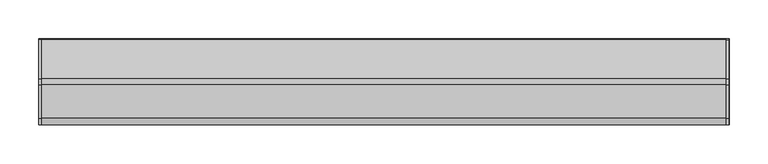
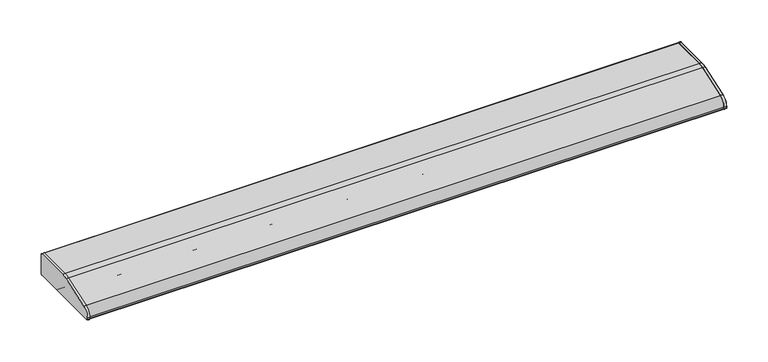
"""IFC4 building model written with IfcOpenShell, lengths in millimetres: light fixture geometry, HermanMiller_SupplementalProducts_G6136_UtilityTaskLight : AO Etho Canvas 42W."""

from ifc_helpers import new_model, si_unit, point, frame, frame_2d, origin, place, context, project, spatial, polyline, circle_curve, trimmed, segment, composite_curve, outline, extrude, source, transform, mapped, element, save


def light_fixture_d29e1486(model_context):
    return source(origin(), model_context, "Body", "SweptSolid", [
        extrude(outline(composite_curve([segment(polyline([(53.975, 1308.1), (-53.975, 1308.1)]), True, "CONTINUOUS"), segment(trimmed(circle_curve(frame_2d((-53.975, 1309.6875)), 1.5875), [point((-53.975, 1308.1))], [point((-55.5625, 1309.6875))], False, "CARTESIAN"), True, "CONTINUOUS"), segment(polyline([(-55.5625, 1309.6875), (-55.5625, 1311.7285714)]), True, "CONTINUOUS"), segment(trimmed(circle_curve(frame_2d((-42.8625, 1311.7285714)), 12.7), [point((-55.5625, 1311.7285714))], [point((-46.9814189, 1323.7420849))], False, "CARTESIAN"), True, "CONTINUOUS"), segment(polyline([(-46.9814189, 1323.7420849), (-4.0045045, 1338.477027)]), True, "CONTINUOUS"), segment(trimmed(circle_curve(frame_2d((4.2333333, 1314.45)), 25.4), [point((-4.0045045, 1338.477027))], [point((4.2333333, 1339.85))], False, "CARTESIAN"), True, "CONTINUOUS"), segment(polyline([(4.2333333, 1339.85), (53.975, 1339.85)]), True, "CONTINUOUS"), segment(trimmed(circle_curve(frame_2d((53.975, 1338.2625)), 1.5875), [point((53.975, 1339.85))], [point((55.5625, 1338.2625))], False, "CARTESIAN"), True, "CONTINUOUS"), segment(polyline([(55.5625, 1338.2625), (55.5625, 1309.6875)]), True, "CONTINUOUS"), segment(trimmed(circle_curve(frame_2d((53.975, 1309.6875)), 1.5875), [point((55.5625, 1309.6875))], [point((53.975, 1308.1))], False, "CARTESIAN"), True, "CONTINUOUS")], self_intersect=False)), frame((441.833, 0.0, 0.0), z_axis=(1.0, 0.0, 0.0), x_axis=(0.0, 1.0, 0.0)), (0.0, 0.0, 1.0), 3.175),
        extrude(outline(composite_curve([segment(trimmed(circle_curve(frame_2d((53.975, 1338.2625)), 1.5875), [point((53.975, 1339.85))], [point((55.5625, 1338.2625))], False, "CARTESIAN"), True, "CONTINUOUS"), segment(polyline([(55.5625, 1338.2625), (55.5625, 1309.6875)]), True, "CONTINUOUS"), segment(trimmed(circle_curve(frame_2d((53.975, 1309.6875)), 1.5875), [point((55.5625, 1309.6875))], [point((53.975, 1308.1))], False, "CARTESIAN"), True, "CONTINUOUS"), segment(polyline([(53.975, 1308.1), (-53.975, 1308.1)]), True, "CONTINUOUS"), segment(trimmed(circle_curve(frame_2d((-53.975, 1309.6875)), 1.5875), [point((-53.975, 1308.1))], [point((-55.5625, 1309.6875))], False, "CARTESIAN"), True, "CONTINUOUS"), segment(polyline([(-55.5625, 1309.6875), (-55.5625, 1311.7285714)]), True, "CONTINUOUS"), segment(trimmed(circle_curve(frame_2d((-42.8625, 1311.7285714)), 12.7), [point((-55.5625, 1311.7285714))], [point((-46.9814189, 1323.7420849))], False, "CARTESIAN"), True, "CONTINUOUS"), segment(polyline([(-46.9814189, 1323.7420849), (-4.0045045, 1338.477027)]), True, "CONTINUOUS"), segment(trimmed(circle_curve(frame_2d((4.2333333, 1314.45)), 25.4), [point((-4.0045045, 1338.477027))], [point((4.2333333, 1339.85))], False, "CARTESIAN"), True, "CONTINUOUS"), segment(polyline([(4.2333333, 1339.85), (53.975, 1339.85)]), True, "CONTINUOUS")], self_intersect=False)), frame((-445.008, 0.0, 0.0), z_axis=(1.0, 0.0, 0.0), x_axis=(0.0, 1.0, 0.0)), (0.0, 0.0, 1.0), 3.175),
        extrude(outline(composite_curve([segment(polyline([(55.5625, 1338.2625), (55.5625, 1309.6875)]), True, "CONTINUOUS"), segment(trimmed(circle_curve(frame_2d((53.975, 1309.6875)), 1.5875), [point((55.5625, 1309.6875))], [point((53.975, 1308.1))], False, "CARTESIAN"), True, "CONTINUOUS"), segment(polyline([(53.975, 1308.1), (19.05, 1308.1)]), True, "CONTINUOUS"), segment(trimmed(circle_curve(frame_2d((19.05, 1309.6875)), 1.5875), [point((19.05, 1308.1))], [point((17.4625, 1309.6875))], False, "CARTESIAN"), True, "CONTINUOUS"), segment(polyline([(17.4625, 1309.6875), (17.4625, 1338.2625), (4.4979167, 1338.2625)]), True, "CONTINUOUS"), segment(trimmed(circle_curve(frame_2d((4.4979167, 1312.8625)), 25.4), [point((4.4979167, 1338.2625))], [point((-3.7399212, 1336.889527))], True, "CARTESIAN"), True, "CONTINUOUS"), segment(polyline([(-3.7399212, 1336.889527), (-37.4564189, 1325.3295849)]), True, "CONTINUOUS"), segment(trimmed(circle_curve(frame_2d((-33.3375, 1313.3160714)), 12.7), [point((-37.4564189, 1325.3295849))], [point((-46.0375, 1313.3160714))], True, "CARTESIAN"), True, "CONTINUOUS"), segment(polyline([(-46.0375, 1313.3160714), (-46.0375, 1309.6875)]), True, "CONTINUOUS"), segment(trimmed(circle_curve(frame_2d((-47.625, 1309.6875)), 1.5875), [point((-46.0375, 1309.6875))], [point((-47.625, 1308.1))], False, "CARTESIAN"), True, "CONTINUOUS"), segment(polyline([(-47.625, 1308.1), (-53.975, 1308.1)]), True, "CONTINUOUS"), segment(trimmed(circle_curve(frame_2d((-53.975, 1309.6875)), 1.5875), [point((-53.975, 1308.1))], [point((-55.5625, 1309.6875))], False, "CARTESIAN"), True, "CONTINUOUS"), segment(polyline([(-55.5625, 1309.6875), (-55.5625, 1311.7285714)]), True, "CONTINUOUS"), segment(trimmed(circle_curve(frame_2d((-42.8625, 1311.7285714)), 12.7), [point((-55.5625, 1311.7285714))], [point((-46.9814189, 1323.7420849))], False, "CARTESIAN"), True, "CONTINUOUS"), segment(polyline([(-46.9814189, 1323.7420849), (-4.0045045, 1338.477027)]), True, "CONTINUOUS"), segment(trimmed(circle_curve(frame_2d((4.2333333, 1314.45)), 25.4), [point((-4.0045045, 1338.477027))], [point((4.2333333, 1339.85))], False, "CARTESIAN"), True, "CONTINUOUS"), segment(polyline([(4.2333333, 1339.85), (53.975, 1339.85)]), True, "CONTINUOUS"), segment(trimmed(circle_curve(frame_2d((53.975, 1338.2625)), 1.5875), [point((53.975, 1339.85))], [point((55.5625, 1338.2625))], False, "CARTESIAN"), True, "CONTINUOUS")], self_intersect=False)), frame((-445.008, 0.0, 0.0), z_axis=(1.0, 0.0, 0.0), x_axis=(0.0, 1.0, 0.0)), (0.0, 0.0, 1.0), 890.4820011),
        extrude(outline(composite_curve([segment(trimmed(circle_curve(frame_2d((1.5875, 1325.5625)), 9.525), [point((-7.9375, 1325.5625))], [point((11.1125, 1325.5625))], False, "CARTESIAN"), True, "CONTINUOUS"), segment(trimmed(circle_curve(frame_2d((1.5875, 1325.5625)), 9.525), [point((11.1125, 1325.5625))], [point((-7.9375, 1325.5625))], False, "CARTESIAN"), True, "CONTINUOUS")], self_intersect=False)), frame((419.608, 0.0, 0.0), z_axis=(1.0, 0.0, 0.0), x_axis=(0.0, 1.0, 0.0)), (0.0, 0.0, 1.0), 12.7),
        extrude(outline(composite_curve([segment(trimmed(circle_curve(frame_2d((1.5875, 1325.5625)), 9.525), [point((-7.9375, 1325.5625))], [point((11.1125, 1325.5625))], False, "CARTESIAN"), True, "CONTINUOUS"), segment(trimmed(circle_curve(frame_2d((1.5875, 1325.5625)), 9.525), [point((11.1125, 1325.5625))], [point((-7.9375, 1325.5625))], False, "CARTESIAN"), True, "CONTINUOUS")], self_intersect=False)), frame((-432.308, 0.0, 0.0), z_axis=(1.0, 0.0, 0.0), x_axis=(0.0, 1.0, 0.0)), (0.0, 0.0, 1.0), 12.7),
        extrude(outline(composite_curve([segment(trimmed(circle_curve(frame_2d((1.5875, 1325.5625)), 9.525), [point((-7.9375, 1325.5625))], [point((11.1125, 1325.5625))], False, "CARTESIAN"), True, "CONTINUOUS"), segment(trimmed(circle_curve(frame_2d((1.5875, 1325.5625)), 9.525), [point((11.1125, 1325.5625))], [point((-7.9375, 1325.5625))], False, "CARTESIAN"), True, "CONTINUOUS")], self_intersect=False)), frame((-419.608, 0.0, 0.0), z_axis=(1.0, 0.0, 0.0), x_axis=(0.0, 1.0, 0.0)), (0.0, 0.0, 1.0), 839.216),
        extrude(outline(composite_curve([segment(polyline([(17.4625, 1311.275), (-46.0375, 1311.275), (-46.0375, 1313.3160714)]), True, "CONTINUOUS"), segment(trimmed(circle_curve(frame_2d((-33.3375, 1313.3160714)), 12.7), [point((-46.0375, 1313.3160714))], [point((-37.4564189, 1325.3295849))], False, "CARTESIAN"), True, "CONTINUOUS"), segment(polyline([(-37.4564189, 1325.3295849), (-3.7399212, 1336.889527)]), True, "CONTINUOUS"), segment(trimmed(circle_curve(frame_2d((4.4979167, 1312.8625)), 25.4), [point((-3.7399212, 1336.889527))], [point((4.4979167, 1338.2625))], False, "CARTESIAN"), True, "CONTINUOUS"), segment(polyline([(4.4979167, 1338.2625), (17.4625, 1338.2625), (17.4625, 1311.275)]), True, "CONTINUOUS")], self_intersect=False)), frame((432.308, 0.0, 0.0), z_axis=(1.0, 0.0, 0.0), x_axis=(0.0, 1.0, 0.0)), (0.0, 0.0, 1.0), 9.525),
        extrude(outline(composite_curve([segment(polyline([(17.4625, 1311.275), (-46.0375, 1311.275), (-46.0375, 1313.3160714)]), True, "CONTINUOUS"), segment(trimmed(circle_curve(frame_2d((-33.3375, 1313.3160714)), 12.7), [point((-46.0375, 1313.3160714))], [point((-37.4564189, 1325.3295849))], False, "CARTESIAN"), True, "CONTINUOUS"), segment(polyline([(-37.4564189, 1325.3295849), (-3.7399212, 1336.889527)]), True, "CONTINUOUS"), segment(trimmed(circle_curve(frame_2d((4.4979167, 1312.8625)), 25.4), [point((-3.7399212, 1336.889527))], [point((4.4979167, 1338.2625))], False, "CARTESIAN"), True, "CONTINUOUS"), segment(polyline([(4.4979167, 1338.2625), (17.4625, 1338.2625), (17.4625, 1311.275)]), True, "CONTINUOUS")], self_intersect=False)), frame((-441.833, 0.0, 0.0), z_axis=(1.0, 0.0, 0.0), x_axis=(0.0, 1.0, 0.0)), (0.0, 0.0, 1.0), 9.525),
    ])


if __name__ == "__main__":
    model = new_model("IFC4")
    model_context = context("Model", 3, world=origin())
    ifc_project = project(units=[si_unit("LENGTHUNIT", "METRE", prefix="MILLI")], contexts=[model_context])
    site = spatial("IfcSite", under=ifc_project)
    building = spatial("IfcBuilding", under=site)
    placement = place(None, origin())
    light_fixture_shape = light_fixture_d29e1486(model_context)
    element("IfcLightFixture", 1, ObjectType="HermanMiller_SupplementalProducts_G6136_UtilityTaskLight : AO Etho Canvas 42W", at=placement, inside=building, context=model_context, shape_type="MappedRepresentation", body=[
        mapped(light_fixture_shape, transform((0.0, 0.0, 0.0), x_axis=(1.0, 0.0, 0.0), y_axis=(0.0, 1.0, 0.0), z_axis=(0.0, 0.0, 1.0))),
    ])
    save(model, "model.ifc")
